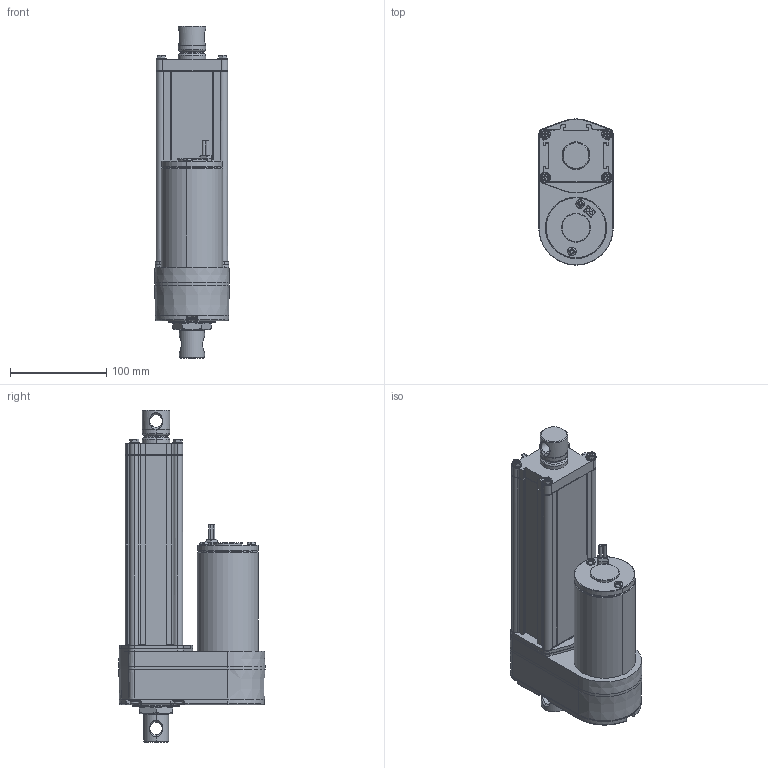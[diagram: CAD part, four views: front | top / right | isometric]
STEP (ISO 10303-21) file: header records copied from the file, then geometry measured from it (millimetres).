
FILE_DESCRIPTION (( 'STEP AP203' ), '1' );
FILE_NAME ('ID12-B-100-IP69K.STEP', '2022-10-19T09:04:52', ( '' ), ( '' ), 'SwSTEP 2.0', 'SolidWorks 2020', '' );
FILE_SCHEMA (( 'CONFIG_CONTROL_DESIGN' ));
Length unit declared in the file: millimetre
Products named in the file (3): ID12-B-100-IP69K; ID12-1; ID12-2
Assembly tree (2 placements, depth 2):
  ID12-B-100-IP69K
    ID12-1
    ID12-2
Bounding box: 77.3 x 151.8 x 344.5 mm (x, y, z)
Volume: 1717405.5 mm3; surface area: 205849.2 mm2
Topology: 2 solids, 29 shells, 1787 faces, 4369 edges, 2691 vertices
Faces by surface type: plane 937, cylinder 490, cone 128, torus 109, bspline 107, sphere 16
Entity records: 58075 total; most frequent: CARTESIAN_POINT 17524, ORIENTED_EDGE 8702, DIRECTION 8252, EDGE_CURVE 4351, AXIS2_PLACEMENT_3D 3103, VERTEX_POINT 2691, LINE 2046, VECTOR 2046
